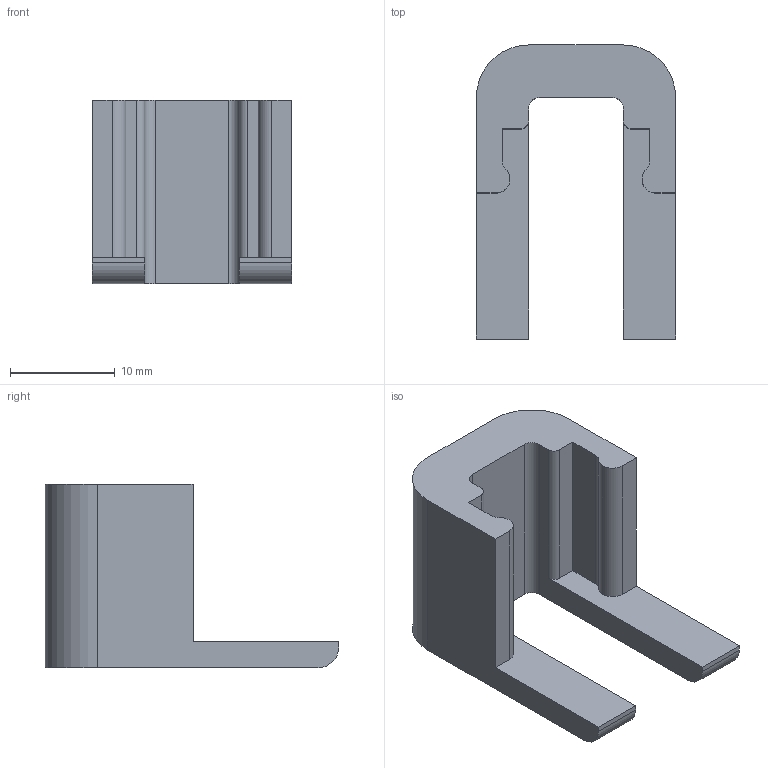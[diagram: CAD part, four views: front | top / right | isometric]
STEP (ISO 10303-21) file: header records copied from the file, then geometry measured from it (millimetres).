
FILE_DESCRIPTION (( 'STEP AP203' ), '1' );
FILE_NAME ('DBP_UPPER_ROLLER_GUIDE_cap_V2.STEP', '2018-11-06T21:44:28', ( '' ), ( '' ), 'SwSTEP 2.0', 'SolidWorks 2015', '' );
FILE_SCHEMA (( 'CONFIG_CONTROL_DESIGN' ));
Length unit declared in the file: inch
Products named in the file (1): DBP_UPPER_ROLLER_GUIDE_cap_V2
Bounding box: 19 x 28 x 17.5 mm (x, y, z)
Volume: 2981.5 mm3; surface area: 2145.1 mm2
Topology: 1 solids, 1 shells, 31 faces, 87 edges, 58 vertices
Faces by surface type: plane 18, cylinder 13
Entity records: 1086 total; most frequent: DIRECTION 177, CARTESIAN_POINT 177, ORIENTED_EDGE 174, EDGE_CURVE 87, LINE 61, VECTOR 61, VERTEX_POINT 58, AXIS2_PLACEMENT_3D 58
